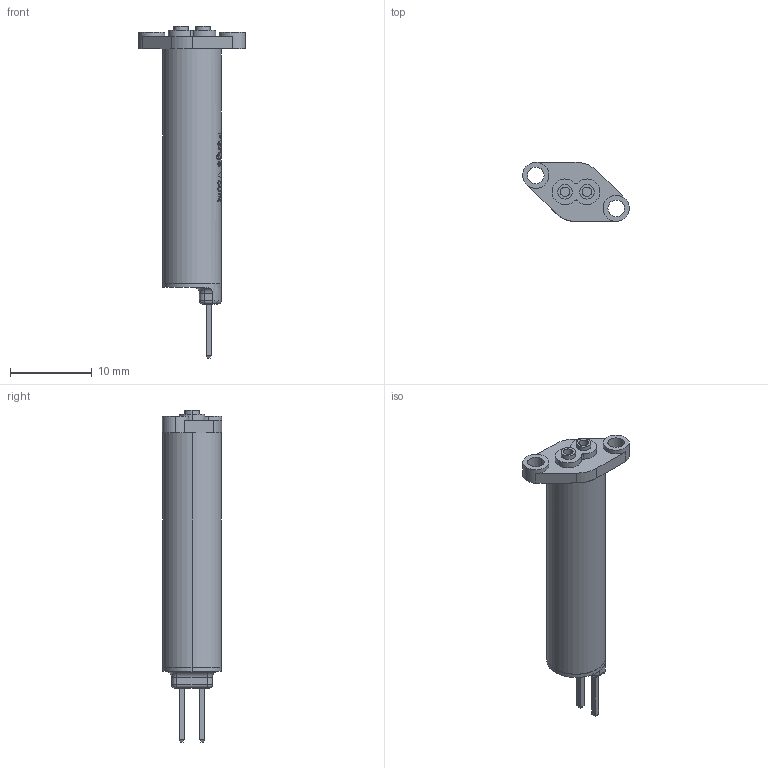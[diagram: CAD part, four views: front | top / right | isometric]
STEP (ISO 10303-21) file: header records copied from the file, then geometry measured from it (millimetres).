
FILE_DESCRIPTION (( 'STEP AP214' ), '1' );
FILE_NAME ('Lee-LFN_Series_Flange-CAD_Model_A1 A1.step', '2021-03-11T18:59:51', ( '' ), ( '' ), 'SwSTEP 2.0', 'SolidWorks 2019', '' );
FILE_SCHEMA (( 'AUTOMOTIVE_DESIGN' ));
Length unit declared in the file: inch
Products named in the file (1): Lee-LFN_Series_Flange-CAD_Model_A1 A1
Bounding box: 13.06 x 7.24 x 40.64 mm (x, y, z)
Volume: 1321.9 mm3; surface area: 985.4 mm2
Topology: 1 solids, 1 shells, 580 faces, 1576 edges, 1044 vertices
Faces by surface type: bspline 258, plane 209, cylinder 108, torus 5
Entity records: 40278 total; most frequent: CARTESIAN_POINT 20216, ORIENTED_EDGE 3152, DIRECTION 1660, EDGE_CURVE 1576, VERTEX_POINT 1044, B_SPLINE_CURVE_WITH_KNOTS 849, EDGE_LOOP 630, AXIS2_PLACEMENT_3D 610
